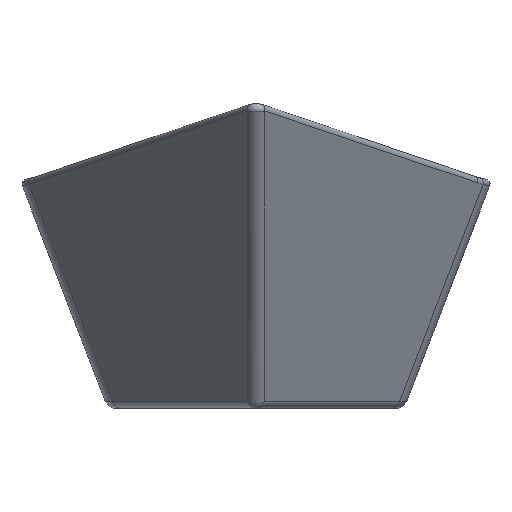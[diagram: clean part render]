
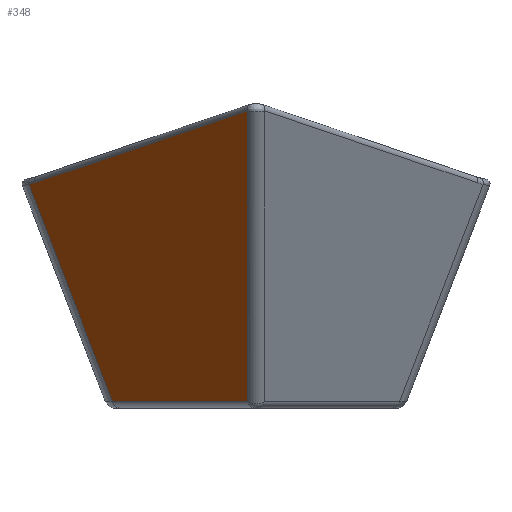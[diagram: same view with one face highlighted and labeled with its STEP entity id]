
A CAD part, left-side view. The second image highlights one B-rep face of the part: STEP entity #348.
In plain terms, the highlighted planar face has unit normal (-0.474, 0.822, -0.316).
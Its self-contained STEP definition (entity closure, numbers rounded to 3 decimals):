
#253=FACE_OUTER_BOUND('',#465,.T.);
#348=ADVANCED_FACE('',(#253),#443,.F.);
#443=PLANE('',#1530);
#465=EDGE_LOOP('',(#661,#662,#663,#664,#665));
#573=ELLIPSE('',#1529,24.952,20.5);
#661=ORIENTED_EDGE('',*,*,#1193,.T.);
#662=ORIENTED_EDGE('',*,*,#1194,.T.);
#663=ORIENTED_EDGE('',*,*,#1195,.T.);
#664=ORIENTED_EDGE('',*,*,#1196,.T.);
#665=ORIENTED_EDGE('',*,*,#1197,.T.);
#1077=VERTEX_POINT('',#2236);
#1078=VERTEX_POINT('',#2237);
#1079=VERTEX_POINT('',#2239);
#1080=VERTEX_POINT('',#2241);
#1081=VERTEX_POINT('',#2243);
#1193=EDGE_CURVE('',#1077,#1078,#1381,.T.);
#1194=EDGE_CURVE('',#1078,#1079,#573,.T.);
#1195=EDGE_CURVE('',#1079,#1080,#1382,.T.);
#1196=EDGE_CURVE('',#1080,#1081,#1383,.T.);
#1197=EDGE_CURVE('',#1081,#1077,#1384,.T.);
#1381=LINE('',#2235,#1457);
#1382=LINE('',#2240,#1458);
#1383=LINE('',#2242,#1459);
#1384=LINE('',#2244,#1460);
#1457=VECTOR('',#1771,1.);
#1458=VECTOR('',#1774,1.);
#1459=VECTOR('',#1775,1.);
#1460=VECTOR('',#1776,1.);
#1529=AXIS2_PLACEMENT_3D('',#2238,#1772,#1773);
#1530=AXIS2_PLACEMENT_3D('',#2245,#1777,#1778);
#1771=DIRECTION('',(0.88,0.45,-0.152));
#1772=DIRECTION('',(0.474,-0.822,0.316));
#1773=DIRECTION('',(0.684,0.57,0.456));
#1774=DIRECTION('',(0.,-0.359,-0.933));
#1775=DIRECTION('',(-0.866,-0.5,0.));
#1776=DIRECTION('',(-0.555,0.,0.832));
#1777=DIRECTION('',(0.474,-0.822,0.316));
#1778=DIRECTION('',(0.866,0.5,0.));
#2235=CARTESIAN_POINT('',(-19.341,13.513,24.634));
#2236=CARTESIAN_POINT('',(-44.184,0.822,28.924));
#2237=CARTESIAN_POINT('',(-3.726,21.491,21.937));
#2238=CARTESIAN_POINT('',(-0.237,31.28,42.138));
#2239=CARTESIAN_POINT('',(-2.609,22.074,21.776));
#2240=CARTESIAN_POINT('',(-2.609,18.444,12.345));
#2241=CARTESIAN_POINT('',(-2.609,13.955,0.684));
#2242=CARTESIAN_POINT('',(-25.015,1.019,0.684));
#2243=CARTESIAN_POINT('',(-25.357,0.822,0.684));
#2244=CARTESIAN_POINT('',(-30.316,0.822,8.122));
#2245=CARTESIAN_POINT('',(-19.173,10.115,15.551));
